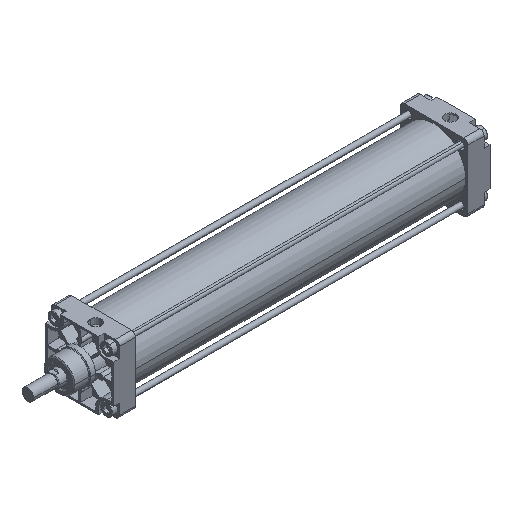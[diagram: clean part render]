
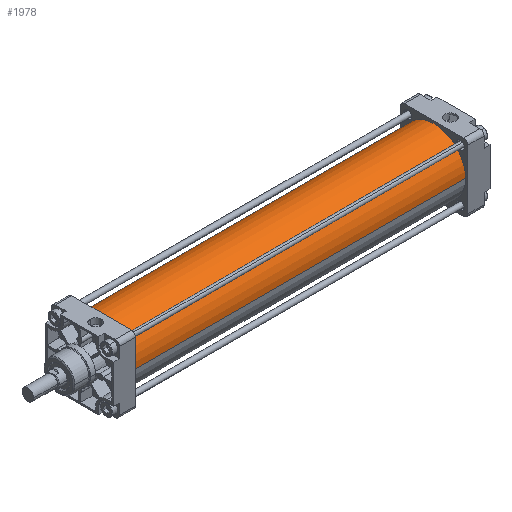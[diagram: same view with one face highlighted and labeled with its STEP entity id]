
A CAD part, isometric view. The second image highlights one B-rep face of the part: STEP entity #1978.
In plain terms, the highlighted cylindrical face has radius 53.5 mm (diameter 107 mm), a partial arc.
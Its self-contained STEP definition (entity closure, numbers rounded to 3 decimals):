
#1682=CARTESIAN_POINT('Axis2P3D Location',(0.,0.,0.)) ;
#1686=CARTESIAN_POINT('Vertex',(0.,53.5,0.)) ;
#1688=CARTESIAN_POINT('Vertex',(0.,-53.5,0.)) ;
#1948=CARTESIAN_POINT('Axis2P3D Location',(282.,0.,0.)) ;
#1953=CARTESIAN_POINT('Line Origine',(282.,53.5,0.)) ;
#1957=CARTESIAN_POINT('Vertex',(564.,53.5,0.)) ;
#1960=CARTESIAN_POINT('Line Origine',(282.,-53.5,0.)) ;
#1964=CARTESIAN_POINT('Vertex',(564.,-53.5,0.)) ;
#1967=CARTESIAN_POINT('Axis2P3D Location',(564.,0.,0.)) ;
#1683=DIRECTION('Axis2P3D Direction',(1.,0.,0.)) ;
#1949=DIRECTION('Axis2P3D Direction',(1.,0.,0.)) ;
#1950=DIRECTION('Axis2P3D XDirection',(0.,1.,0.)) ;
#1954=DIRECTION('Vector Direction',(1.,0.,0.)) ;
#1961=DIRECTION('Vector Direction',(1.,0.,0.)) ;
#1968=DIRECTION('Axis2P3D Direction',(1.,0.,0.)) ;
#1684=AXIS2_PLACEMENT_3D('Circle Axis2P3D',#1682,#1683,$) ;
#1951=AXIS2_PLACEMENT_3D('Cylinder Axis2P3D',#1948,#1949,#1950) ;
#1969=AXIS2_PLACEMENT_3D('Circle Axis2P3D',#1967,#1968,$) ;
#1973=ORIENTED_EDGE('',*,*,#1959,.F.) ;
#1974=ORIENTED_EDGE('',*,*,#1690,.T.) ;
#1975=ORIENTED_EDGE('',*,*,#1966,.T.) ;
#1976=ORIENTED_EDGE('',*,*,#1971,.F.) ;
#1955=VECTOR('Line Direction',#1954,1.) ;
#1962=VECTOR('Line Direction',#1961,1.) ;
#1978=ADVANCED_FACE('PartBody',(#1977),#1952,.T.) ;
#1685=CIRCLE('generated circle',#1684,53.5) ;
#1970=CIRCLE('generated circle',#1969,53.5) ;
#1952=CYLINDRICAL_SURFACE('generated cylinder',#1951,53.5) ;
#1690=EDGE_CURVE('',#1687,#1689,#1685,.T.) ;
#1959=EDGE_CURVE('',#1687,#1958,#1956,.T.) ;
#1966=EDGE_CURVE('',#1689,#1965,#1963,.T.) ;
#1971=EDGE_CURVE('',#1958,#1965,#1970,.T.) ;
#1972=EDGE_LOOP('',(#1973,#1974,#1975,#1976)) ;
#1977=FACE_OUTER_BOUND('',#1972,.T.) ;
#1956=LINE('Line',#1953,#1955) ;
#1963=LINE('Line',#1960,#1962) ;
#1687=VERTEX_POINT('',#1686) ;
#1689=VERTEX_POINT('',#1688) ;
#1958=VERTEX_POINT('',#1957) ;
#1965=VERTEX_POINT('',#1964) ;
